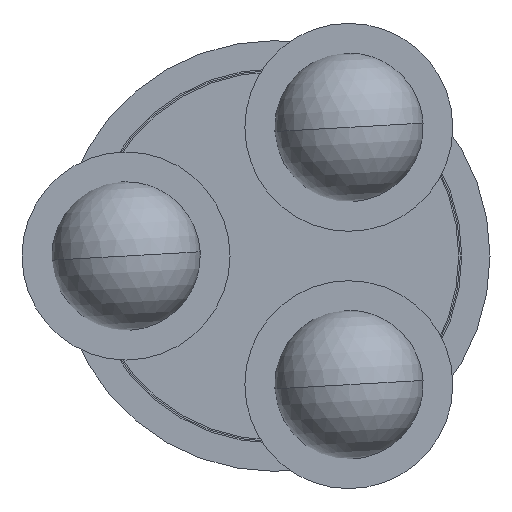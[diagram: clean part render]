
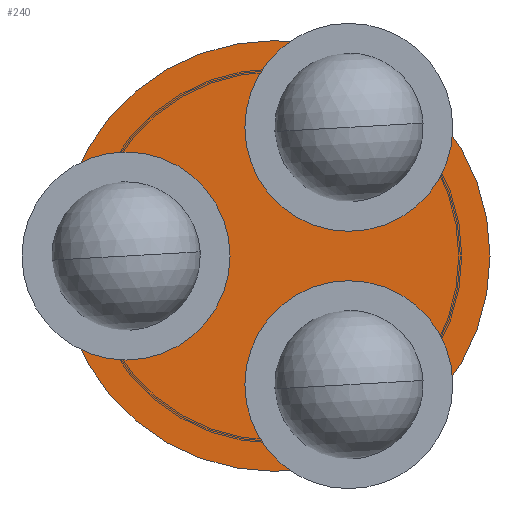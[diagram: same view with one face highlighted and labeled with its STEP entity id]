
A CAD part, front view. The second image highlights one B-rep face of the part: STEP entity #240.
In plain terms, the highlighted planar face has unit normal (0, -1, 0).
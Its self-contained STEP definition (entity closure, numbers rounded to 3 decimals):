
#50 = VECTOR ( 'NONE', #1762, 1000. ) ;
#58 = EDGE_CURVE ( 'NONE', #1395, #537, #3704, .T. ) ;
#66 = DIRECTION ( 'NONE',  ( 0., -1., 0. ) ) ;
#212 = EDGE_CURVE ( 'NONE', #5324, #6041, #3361, .T. ) ;
#240 = ADVANCED_FACE ( 'NONE', ( #1090, #2985, #3956, #4912 ), #4881, .F. ) ;
#277 = AXIS2_PLACEMENT_3D ( 'NONE', #4407, #2547, #4439 ) ;
#343 = CARTESIAN_POINT ( 'NONE',  ( 103.033, -1., 4.1 ) ) ;
#354 = DIRECTION ( 'NONE',  ( 0., -1., 0. ) ) ;
#369 = EDGE_LOOP ( 'NONE', ( #5750, #3872, #2109, #2656 ) ) ;
#440 = VECTOR ( 'NONE', #5923, 1000. ) ;
#537 = VERTEX_POINT ( 'NONE', #2314 ) ;
#587 = CARTESIAN_POINT ( 'NONE',  ( -44.933, -1., -86.026 ) ) ;
#613 = AXIS2_PLACEMENT_3D ( 'NONE', #4106, #2180, #728 ) ;
#690 = EDGE_CURVE ( 'NONE', #3526, #1395, #2864, .T. ) ;
#709 = CARTESIAN_POINT ( 'NONE',  ( -52.034, -1., 81.926 ) ) ;
#728 = DIRECTION ( 'NONE',  ( 0.866, 0., 0.5 ) ) ;
#764 = EDGE_CURVE ( 'NONE', #3774, #3526, #3413, .T. ) ;
#883 = CARTESIAN_POINT ( 'NONE',  ( -55.067, -1., -87.179 ) ) ;
#900 = EDGE_CURVE ( 'NONE', #5897, #5324, #5971, .T. ) ;
#972 = CARTESIAN_POINT ( 'NONE',  ( 0., -1., 0. ) ) ;
#983 = EDGE_CURVE ( 'NONE', #3134, #3702, #3270, .T. ) ;
#985 = AXIS2_PLACEMENT_3D ( 'NONE', #5099, #6060, #3699 ) ;
#1090 = FACE_BOUND ( 'NONE', #369, .T. ) ;
#1150 = VERTEX_POINT ( 'NONE', #2781 ) ;
#1226 = EDGE_LOOP ( 'NONE', ( #3520, #3288, #2752, #2625 ) ) ;
#1255 = DIRECTION ( 'NONE',  ( -0.866, 0., 0.5 ) ) ;
#1328 = CARTESIAN_POINT ( 'NONE',  ( 96.967, -1., 4.1 ) ) ;
#1352 = EDGE_CURVE ( 'NONE', #6041, #1150, #2582, .T. ) ;
#1395 = VERTEX_POINT ( 'NONE', #343 ) ;
#1468 = CARTESIAN_POINT ( 'NONE',  ( -52.034, -1., -81.926 ) ) ;
#1512 = AXIS2_PLACEMENT_3D ( 'NONE', #3690, #1778, #1255 ) ;
#1566 = CARTESIAN_POINT ( 'NONE',  ( 103.033, -1., -4.1 ) ) ;
#1584 = DIRECTION ( 'NONE',  ( 0.866, 0., 0.5 ) ) ;
#1706 = DIRECTION ( 'NONE',  ( -1., 0., 0. ) ) ;
#1756 = VECTOR ( 'NONE', #1706, 1000. ) ;
#1762 = DIRECTION ( 'NONE',  ( 0.5, 0., 0.866 ) ) ;
#1778 = DIRECTION ( 'NONE',  ( 0., -1., 0. ) ) ;
#1818 = EDGE_LOOP ( 'NONE', ( #2872, #5204, #2759, #5861 ) ) ;
#1944 = CARTESIAN_POINT ( 'NONE',  ( 100., -1., 0. ) ) ;
#1968 = VECTOR ( 'NONE', #2538, 1000. ) ;
#2009 = EDGE_CURVE ( 'NONE', #537, #3774, #4355, .T. ) ;
#2109 = ORIENTED_EDGE ( 'NONE', *, *, #4837, .F. ) ;
#2178 = CARTESIAN_POINT ( 'NONE',  ( -44.933, -1., 86.026 ) ) ;
#2180 = DIRECTION ( 'NONE',  ( 0., -1., 0. ) ) ;
#2209 = DIRECTION ( 'NONE',  ( 0., 0., -1. ) ) ;
#2314 = CARTESIAN_POINT ( 'NONE',  ( 96.967, -1., 4.1 ) ) ;
#2336 = CIRCLE ( 'NONE', #5835, 145. ) ;
#2410 = CARTESIAN_POINT ( 'NONE',  ( -47.966, -1., -91.279 ) ) ;
#2538 = DIRECTION ( 'NONE',  ( 1., 0., 0. ) ) ;
#2547 = DIRECTION ( 'NONE',  ( 0., 1., 0. ) ) ;
#2582 = LINE ( 'NONE', #5496, #440 ) ;
#2619 = DIRECTION ( 'NONE',  ( 0., -1., 0. ) ) ;
#2625 = ORIENTED_EDGE ( 'NONE', *, *, #212, .F. ) ;
#2656 = ORIENTED_EDGE ( 'NONE', *, *, #5269, .F. ) ;
#2742 = DIRECTION ( 'NONE',  ( -0.5, 0., -0.866 ) ) ;
#2752 = ORIENTED_EDGE ( 'NONE', *, *, #1352, .F. ) ;
#2759 = ORIENTED_EDGE ( 'NONE', *, *, #764, .F. ) ;
#2760 = CARTESIAN_POINT ( 'NONE',  ( 0., -1., 145. ) ) ;
#2771 = CIRCLE ( 'NONE', #613, 5.1 ) ;
#2781 = CARTESIAN_POINT ( 'NONE',  ( -47.966, -1., 91.279 ) ) ;
#2863 = DIRECTION ( 'NONE',  ( 0., 0., 1. ) ) ;
#2864 = CIRCLE ( 'NONE', #4553, 5.1 ) ;
#2872 = ORIENTED_EDGE ( 'NONE', *, *, #58, .F. ) ;
#2926 = VERTEX_POINT ( 'NONE', #1468 ) ;
#2928 = AXIS2_PLACEMENT_3D ( 'NONE', #5873, #2619, #4518 ) ;
#2951 = CARTESIAN_POINT ( 'NONE',  ( -50., -1., 86.603 ) ) ;
#2985 = FACE_BOUND ( 'NONE', #1226, .T. ) ;
#3005 = DIRECTION ( 'NONE',  ( 0., 0., -1. ) ) ;
#3011 = EDGE_CURVE ( 'NONE', #5844, #5609, #4181, .T. ) ;
#3078 = ORIENTED_EDGE ( 'NONE', *, *, #983, .F. ) ;
#3134 = VERTEX_POINT ( 'NONE', #2760 ) ;
#3218 = CARTESIAN_POINT ( 'NONE',  ( 100., -1., 0. ) ) ;
#3224 = VECTOR ( 'NONE', #2742, 1000. ) ;
#3270 = CIRCLE ( 'NONE', #985, 145. ) ;
#3288 = ORIENTED_EDGE ( 'NONE', *, *, #3648, .F. ) ;
#3315 = CARTESIAN_POINT ( 'NONE',  ( -52.034, -1., -81.926 ) ) ;
#3361 = CIRCLE ( 'NONE', #5944, 5.1 ) ;
#3413 = LINE ( 'NONE', #5327, #1968 ) ;
#3520 = ORIENTED_EDGE ( 'NONE', *, *, #900, .F. ) ;
#3526 = VERTEX_POINT ( 'NONE', #1566 ) ;
#3574 = DIRECTION ( 'NONE',  ( 0.5, 0., -0.866 ) ) ;
#3577 = CARTESIAN_POINT ( 'NONE',  ( -44.933, -1., -86.026 ) ) ;
#3648 = EDGE_CURVE ( 'NONE', #1150, #5897, #2771, .T. ) ;
#3687 = CARTESIAN_POINT ( 'NONE',  ( 96.967, -1., -4.1 ) ) ;
#3690 = CARTESIAN_POINT ( 'NONE',  ( -50., -1., -86.603 ) ) ;
#3699 = DIRECTION ( 'NONE',  ( 0., 0., 1. ) ) ;
#3702 = VERTEX_POINT ( 'NONE', #6071 ) ;
#3704 = LINE ( 'NONE', #1328, #1756 ) ;
#3774 = VERTEX_POINT ( 'NONE', #3687 ) ;
#3845 = DIRECTION ( 'NONE',  ( 0., 1., 0. ) ) ;
#3872 = ORIENTED_EDGE ( 'NONE', *, *, #3011, .F. ) ;
#3954 = EDGE_CURVE ( 'NONE', #3702, #3134, #2336, .T. ) ;
#3956 = FACE_BOUND ( 'NONE', #1818, .T. ) ;
#3997 = EDGE_LOOP ( 'NONE', ( #3078, #5429 ) ) ;
#4051 = LINE ( 'NONE', #3577, #50 ) ;
#4106 = CARTESIAN_POINT ( 'NONE',  ( -50., -1., 86.603 ) ) ;
#4170 = EDGE_CURVE ( 'NONE', #5609, #4950, #4051, .T. ) ;
#4181 = CIRCLE ( 'NONE', #1512, 5.1 ) ;
#4355 = CIRCLE ( 'NONE', #4856, 5.1 ) ;
#4407 = CARTESIAN_POINT ( 'NONE',  ( 0., -1., 0. ) ) ;
#4439 = DIRECTION ( 'NONE',  ( 0., 0., 1. ) ) ;
#4518 = DIRECTION ( 'NONE',  ( -0.866, 0., 0.5 ) ) ;
#4553 = AXIS2_PLACEMENT_3D ( 'NONE', #1944, #66, #3005 ) ;
#4637 = LINE ( 'NONE', #3315, #3224 ) ;
#4837 = EDGE_CURVE ( 'NONE', #2926, #5844, #4637, .T. ) ;
#4856 = AXIS2_PLACEMENT_3D ( 'NONE', #3218, #354, #2209 ) ;
#4881 = PLANE ( 'NONE',  #277 ) ;
#4912 = FACE_OUTER_BOUND ( 'NONE', #3997, .T. ) ;
#4950 = VERTEX_POINT ( 'NONE', #587 ) ;
#5099 = CARTESIAN_POINT ( 'NONE',  ( 0., -1., 0. ) ) ;
#5166 = VECTOR ( 'NONE', #3574, 1000. ) ;
#5204 = ORIENTED_EDGE ( 'NONE', *, *, #690, .F. ) ;
#5217 = CARTESIAN_POINT ( 'NONE',  ( -55.067, -1., 87.179 ) ) ;
#5269 = EDGE_CURVE ( 'NONE', #4950, #2926, #6105, .T. ) ;
#5324 = VERTEX_POINT ( 'NONE', #709 ) ;
#5327 = CARTESIAN_POINT ( 'NONE',  ( 96.967, -1., -4.1 ) ) ;
#5366 = DIRECTION ( 'NONE',  ( 0., -1., 0. ) ) ;
#5429 = ORIENTED_EDGE ( 'NONE', *, *, #3954, .F. ) ;
#5496 = CARTESIAN_POINT ( 'NONE',  ( -44.933, -1., 86.026 ) ) ;
#5609 = VERTEX_POINT ( 'NONE', #2410 ) ;
#5750 = ORIENTED_EDGE ( 'NONE', *, *, #4170, .F. ) ;
#5835 = AXIS2_PLACEMENT_3D ( 'NONE', #972, #3845, #2863 ) ;
#5844 = VERTEX_POINT ( 'NONE', #883 ) ;
#5861 = ORIENTED_EDGE ( 'NONE', *, *, #2009, .F. ) ;
#5873 = CARTESIAN_POINT ( 'NONE',  ( -50., -1., -86.603 ) ) ;
#5897 = VERTEX_POINT ( 'NONE', #5217 ) ;
#5923 = DIRECTION ( 'NONE',  ( -0.5, 0., 0.866 ) ) ;
#5944 = AXIS2_PLACEMENT_3D ( 'NONE', #2951, #5366, #1584 ) ;
#5971 = LINE ( 'NONE', #6033, #5166 ) ;
#6033 = CARTESIAN_POINT ( 'NONE',  ( -52.034, -1., 81.926 ) ) ;
#6041 = VERTEX_POINT ( 'NONE', #2178 ) ;
#6060 = DIRECTION ( 'NONE',  ( 0., 1., 0. ) ) ;
#6071 = CARTESIAN_POINT ( 'NONE',  ( 0., -1., -145. ) ) ;
#6105 = CIRCLE ( 'NONE', #2928, 5.1 ) ;
